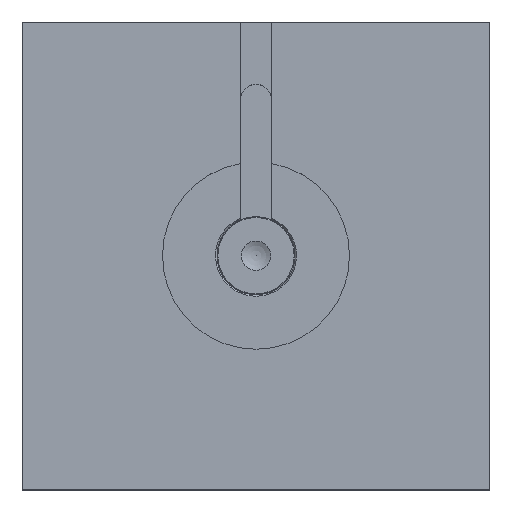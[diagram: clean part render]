
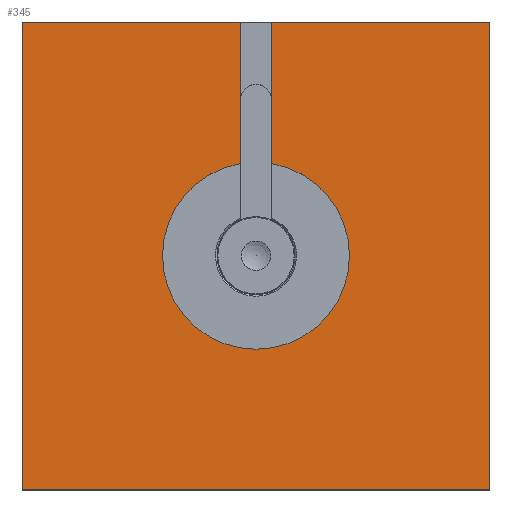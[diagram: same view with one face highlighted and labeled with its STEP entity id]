
A CAD part, top view. The second image highlights one B-rep face of the part: STEP entity #345.
In plain terms, the highlighted planar face has unit normal (0, 0, 1).
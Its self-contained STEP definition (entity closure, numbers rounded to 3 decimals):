
#345 = ADVANCED_FACE( '', ( #725 ), #726, .T. );
#725 = FACE_OUTER_BOUND( '', #1205, .T. );
#726 = PLANE( '', #1206 );
#1205 = EDGE_LOOP( '', ( #1923, #1924, #1925, #1926, #1927, #1928, #1929, #1930 ) );
#1206 = AXIS2_PLACEMENT_3D( '', #1931, #1932, #1933 );
#1923 = ORIENTED_EDGE( '', *, *, #2200, .F. );
#1924 = ORIENTED_EDGE( '', *, *, #2342, .T. );
#1925 = ORIENTED_EDGE( '', *, *, #2134, .T. );
#1926 = ORIENTED_EDGE( '', *, *, #2325, .T. );
#1927 = ORIENTED_EDGE( '', *, *, #2093, .T. );
#1928 = ORIENTED_EDGE( '', *, *, #2303, .T. );
#1929 = ORIENTED_EDGE( '', *, *, #2138, .T. );
#1930 = ORIENTED_EDGE( '', *, *, #2344, .T. );
#1931 = CARTESIAN_POINT( '', ( -150., -150., 0. ) );
#1932 = DIRECTION( '', ( 0., 0., 1. ) );
#1933 = DIRECTION( '', ( 0., -1., 0. ) );
#2093 = EDGE_CURVE( '', #2401, #2402, #2403, .T. );
#2134 = EDGE_CURVE( '', #2473, #2474, #2475, .T. );
#2138 = EDGE_CURVE( '', #2482, #2480, #2483, .T. );
#2200 = EDGE_CURVE( '', #2581, #2582, #2583, .T. );
#2303 = EDGE_CURVE( '', #2402, #2482, #2728, .T. );
#2325 = EDGE_CURVE( '', #2474, #2401, #2757, .T. );
#2342 = EDGE_CURVE( '', #2581, #2473, #2778, .T. );
#2344 = EDGE_CURVE( '', #2480, #2582, #2780, .T. );
#2401 = VERTEX_POINT( '', #2856 );
#2402 = VERTEX_POINT( '', #2857 );
#2403 = LINE( '', #2858, #2859 );
#2473 = VERTEX_POINT( '', #3061 );
#2474 = VERTEX_POINT( '', #3062 );
#2475 = LINE( '', #3063, #3064 );
#2480 = VERTEX_POINT( '', #3071 );
#2482 = VERTEX_POINT( '', #3074 );
#2483 = LINE( '', #3075, #3076 );
#2581 = VERTEX_POINT( '', #3409 );
#2582 = VERTEX_POINT( '', #3410 );
#2583 = CIRCLE( '', #3411, 60. );
#2728 = LINE( '', #3763, #3764 );
#2757 = LINE( '', #3795, #3796 );
#2778 = LINE( '', #3819, #3820 );
#2780 = LINE( '', #3822, #3823 );
#2856 = CARTESIAN_POINT( '', ( -150., -150., 0. ) );
#2857 = CARTESIAN_POINT( '', ( 150., -150., 0. ) );
#2858 = CARTESIAN_POINT( '', ( -150., -150., 0. ) );
#2859 = VECTOR( '', #3874, 1000. );
#3061 = CARTESIAN_POINT( '', ( -10., 150., 0. ) );
#3062 = CARTESIAN_POINT( '', ( -150., 150., 0. ) );
#3063 = CARTESIAN_POINT( '', ( 150., 150., 0. ) );
#3064 = VECTOR( '', #3918, 1000. );
#3071 = CARTESIAN_POINT( '', ( 10., 150., 0. ) );
#3074 = CARTESIAN_POINT( '', ( 150., 150., 0. ) );
#3075 = CARTESIAN_POINT( '', ( 150., 150., 0. ) );
#3076 = VECTOR( '', #3922, 1000. );
#3409 = CARTESIAN_POINT( '', ( -10., 59.161, 0. ) );
#3410 = CARTESIAN_POINT( '', ( 10., 59.161, 0. ) );
#3411 = AXIS2_PLACEMENT_3D( '', #3976, #3977, #3978 );
#3763 = CARTESIAN_POINT( '', ( 150., -150., 0. ) );
#3764 = VECTOR( '', #4088, 1000. );
#3795 = CARTESIAN_POINT( '', ( -150., 150., 0. ) );
#3796 = VECTOR( '', #4115, 1000. );
#3819 = CARTESIAN_POINT( '', ( -10., -150., 0. ) );
#3820 = VECTOR( '', #4130, 1000. );
#3822 = CARTESIAN_POINT( '', ( 10., -150., 0. ) );
#3823 = VECTOR( '', #4131, 1000. );
#3874 = DIRECTION( '', ( 1., 0., 0. ) );
#3918 = DIRECTION( '', ( -1., 0., 0. ) );
#3922 = DIRECTION( '', ( -1., 0., 0. ) );
#3976 = CARTESIAN_POINT( '', ( 0., 0., 0. ) );
#3977 = DIRECTION( '', ( 0., 0., 1. ) );
#3978 = DIRECTION( '', ( 1., 0., 0. ) );
#4088 = DIRECTION( '', ( 0., 1., 0. ) );
#4115 = DIRECTION( '', ( 0., -1., 0. ) );
#4130 = DIRECTION( '', ( 0., 1., 0. ) );
#4131 = DIRECTION( '', ( 0., -1., 0. ) );
